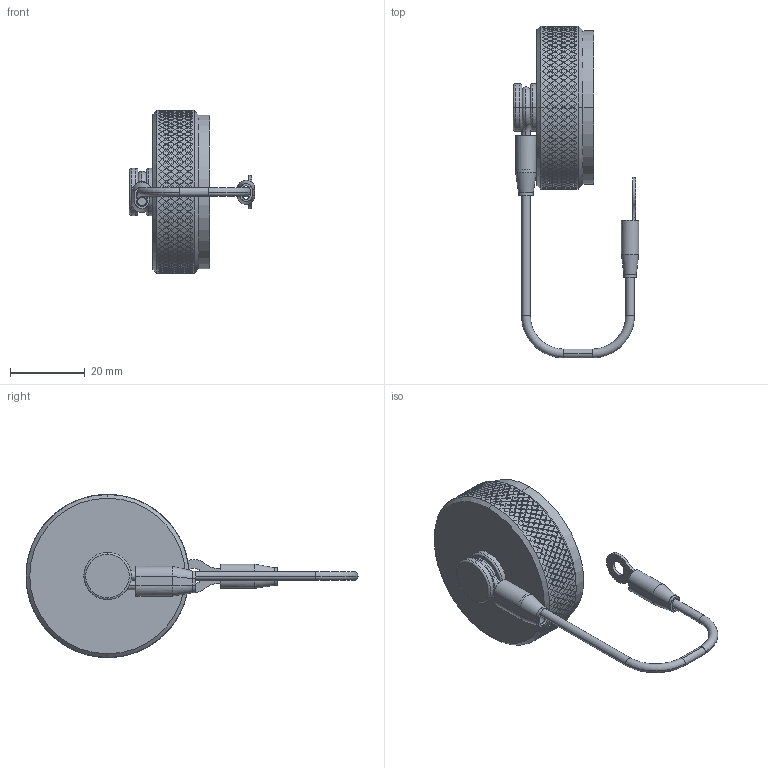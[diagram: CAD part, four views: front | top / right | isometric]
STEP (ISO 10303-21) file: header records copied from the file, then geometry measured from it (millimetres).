
FILE_DESCRIPTION (( 'STEP AP214' ), '1' );
FILE_NAME ('Q38DC-RFX-23-R1.STEP', '2026-04-22T20:13:17', ( '' ), ( '' ), 'SwSTEP 2.0', 'SolidWorks 2024', '' );
FILE_SCHEMA (( 'AUTOMOTIVE_DESIGN' ));
Length unit declared in the file: inch
Products named in the file (9): SW-348; Q38-XX48-X_Q38-2348-X; HEAT SHRINK_HS-250X625_SW-348; HEAT SHRINK_HS-125-625S; SW-347; LN-06-07-13_Q38DC-RFX-23 (Assembled); Q38DC-RFX-23-R1; Q38-XX29-P_23R; Lanyard Assembly Q38_Q38DC-RFX-23
Assembly tree (8 placements, depth 3):
  Q38DC-RFX-23-R1
    Q38-XX48-X_Q38-2348-X
    Lanyard Assembly Q38_Q38DC-RFX-23
      LN-06-07-13_Q38DC-RFX-23 (Assembled)
      SW-348
      HEAT SHRINK_HS-250X625_SW-348
      SW-347
      HEAT SHRINK_HS-125-625S
    Q38-XX29-P_23R
Bounding box: 33.64 x 89.11 x 43.76 mm (x, y, z)
Volume: 10508.2 mm3; surface area: 11603.1 mm2
Topology: 7 solids, 7 shells, 3230 faces, 7984 edges, 5300 vertices
Faces by surface type: plane 2501, cylinder 689, torus 20, bspline 14, cone 6
Entity records: 95619 total; most frequent: CARTESIAN_POINT 33244, ORIENTED_EDGE 15968, DIRECTION 9650, EDGE_CURVE 7984, VERTEX_POINT 5300, EDGE_LOOP 3772, AXIS2_PLACEMENT_3D 3539, ADVANCED_FACE 3230
